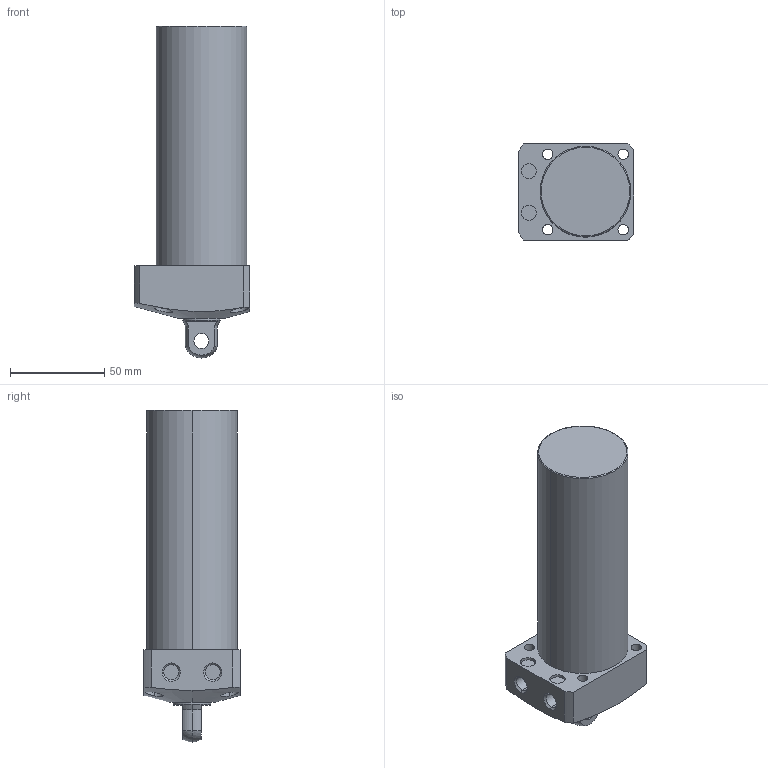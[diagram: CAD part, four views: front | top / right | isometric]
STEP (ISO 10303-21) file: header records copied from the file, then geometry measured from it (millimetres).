
FILE_DESCRIPTION (( 'STEP AP203' ), '1' );
FILE_NAME ('CLL048-CP-0100.STEP', '2017-05-17T10:36:33', ( '' ), ( '' ), 'SwSTEP 2.0', 'SolidWorks 2015', '' );
FILE_SCHEMA (( 'CONFIG_CONTROL_DESIGN' ));
Length unit declared in the file: millimetre
Products named in the file (1): CLL048-CP-0100
Bounding box: 61 x 51 x 176 mm (x, y, z)
Volume: 305151.7 mm3; surface area: 33970.6 mm2
Topology: 1 solids, 1 shells, 68 faces, 159 edges, 103 vertices
Faces by surface type: cylinder 35, plane 21, cone 8, sphere 2, torus 2
Entity records: 2390 total; most frequent: CARTESIAN_POINT 693, DIRECTION 357, ORIENTED_EDGE 318, EDGE_CURVE 159, AXIS2_PLACEMENT_3D 149, VERTEX_POINT 103, EDGE_LOOP 88, CIRCLE 80
